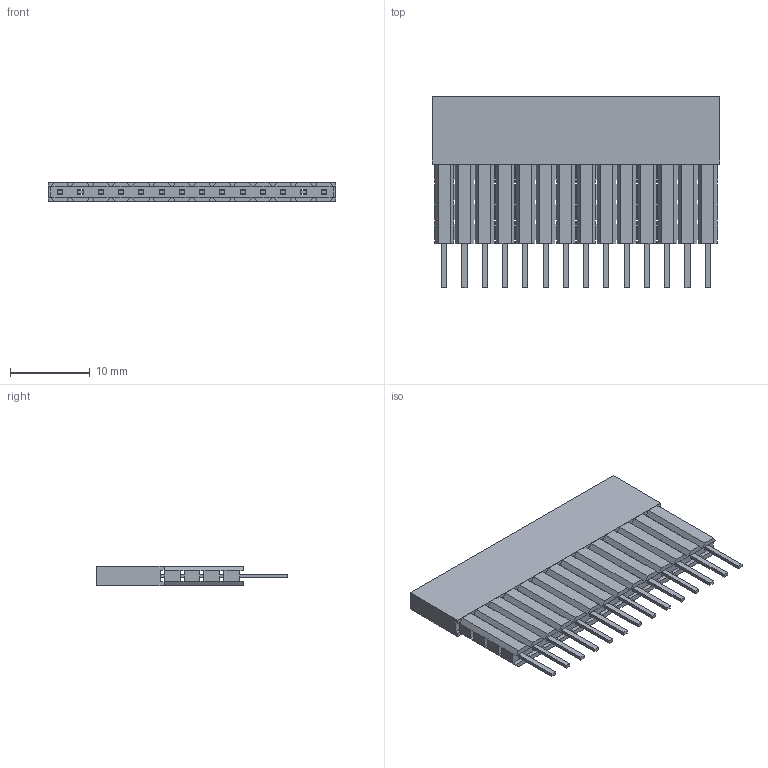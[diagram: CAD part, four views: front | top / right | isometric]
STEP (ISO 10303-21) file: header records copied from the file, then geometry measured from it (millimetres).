
FILE_DESCRIPTION(/* description */ (''),/* implementation_level */ '2;1');
FILE_NAME(/* name */ 'PM254-1-14-Z-C18.5-XX-4LP(L24.0)(2.54 单排 排母 直针 加4层塑胶-HCTL).stp',/* time_stamp */ '2026-10-24T14:58:49+08:00',/* author */ (''),/* organization */ (''),/* preprocessor_version */ 'ST-DEVELOPER v16',/* originating_system */ 'SIEMENS PLM Software NX 10.0',/* authorisation */ '');
FILE_SCHEMA (('AUTOMOTIVE_DESIGN { 1 0 10303 214 3 1 1 1 }'));
Length unit declared in the file: millimetre
Products named in the file (1): PM254-1-N-Z-C18.5-XX-4LP_L24.0__2.54 单排 排母 
直针 加4层塑胶-HCTL__step
Bounding box: 35.96 x 24 x 2.5 mm (x, y, z)
Volume: 1405.5 mm3; surface area: 3348.5 mm2
Topology: 2 solids, 2 shells, 790 faces, 2424 edges, 1448 vertices
Faces by surface type: plane 790
Entity records: 26505 total; most frequent: ORIENTED_EDGE 4848, CARTESIAN_POINT 4663, DIRECTION 4006, EDGE_CURVE 2424, LINE 2424, VECTOR 2424, VERTEX_POINT 1448, EDGE_LOOP 930
